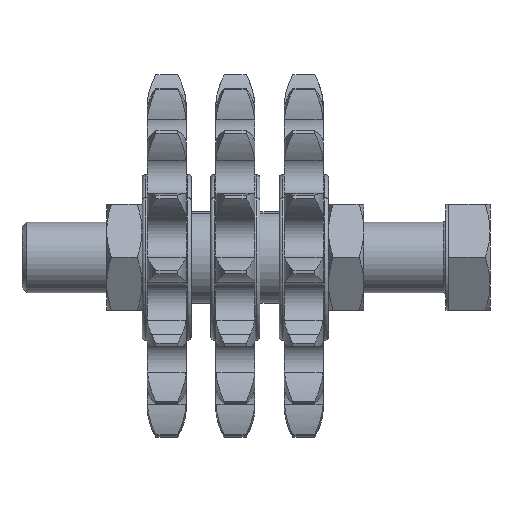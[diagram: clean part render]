
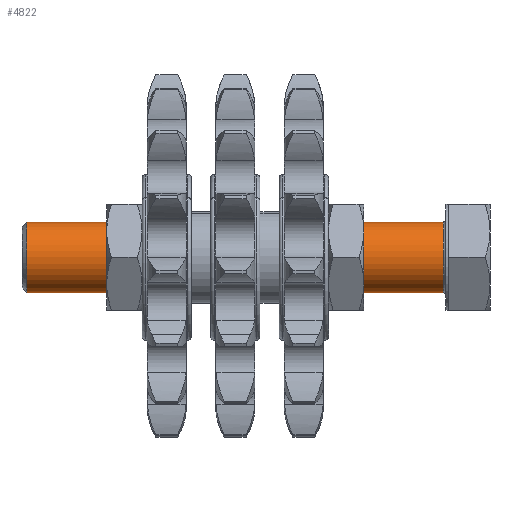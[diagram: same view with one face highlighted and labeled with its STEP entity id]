
A CAD part, front view. The second image highlights one B-rep face of the part: STEP entity #4822.
In plain terms, the highlighted cylindrical face has radius 10 mm (diameter 20 mm), a partial arc.
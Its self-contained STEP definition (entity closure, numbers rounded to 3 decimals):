
#102 = ORIENTED_EDGE ( 'NONE', *, *, #3066, .T. ) ;
#316 = ORIENTED_EDGE ( 'NONE', *, *, #6227, .F. ) ;
#405 = CYLINDRICAL_SURFACE ( 'NONE', #410, 10. ) ;
#410 = AXIS2_PLACEMENT_3D ( 'NONE', #2749, #1646, #3254 ) ;
#627 = CARTESIAN_POINT ( 'NONE',  ( 13.3, 0., 0. ) ) ;
#925 = EDGE_CURVE ( 'NONE', #3704, #4577, #5182, .T. ) ;
#1308 = CARTESIAN_POINT ( 'NONE',  ( 0., 0., -10. ) ) ;
#1436 = VERTEX_POINT ( 'NONE', #6418 ) ;
#1646 = DIRECTION ( 'NONE',  ( -1., 0., 0. ) ) ;
#1851 = AXIS2_PLACEMENT_3D ( 'NONE', #4248, #7007, #3107 ) ;
#2301 = ORIENTED_EDGE ( 'NONE', *, *, #925, .T. ) ;
#2492 = DIRECTION ( 'NONE',  ( -1., 0., 0. ) ) ;
#2623 = CIRCLE ( 'NONE', #1851, 10. ) ;
#2644 = VECTOR ( 'NONE', #5903, 1000. ) ;
#2749 = CARTESIAN_POINT ( 'NONE',  ( 0., 0., 0. ) ) ;
#2887 = VECTOR ( 'NONE', #2492, 1000. ) ;
#2992 = CARTESIAN_POINT ( 'NONE',  ( 13.3, 0., -10. ) ) ;
#3027 = VERTEX_POINT ( 'NONE', #5845 ) ;
#3066 = EDGE_CURVE ( 'NONE', #3027, #3704, #4727, .T. ) ;
#3107 = DIRECTION ( 'NONE',  ( 0., 0., 1. ) ) ;
#3254 = DIRECTION ( 'NONE',  ( 0., 0., 1. ) ) ;
#3473 = EDGE_CURVE ( 'NONE', #1436, #3027, #2623, .T. ) ;
#3704 = VERTEX_POINT ( 'NONE', #6194 ) ;
#4243 = ORIENTED_EDGE ( 'NONE', *, *, #3473, .T. ) ;
#4248 = CARTESIAN_POINT ( 'NONE',  ( 131.126, 0., 0. ) ) ;
#4562 = DIRECTION ( 'NONE',  ( 0., 0., -1. ) ) ;
#4577 = VERTEX_POINT ( 'NONE', #2992 ) ;
#4727 = LINE ( 'NONE', #6429, #2887 ) ;
#4822 = ADVANCED_FACE ( 'NONE', ( #6744 ), #405, .T. ) ;
#5182 = CIRCLE ( 'NONE', #6107, 10. ) ;
#5722 = DIRECTION ( 'NONE',  ( 1., 0., 0. ) ) ;
#5845 = CARTESIAN_POINT ( 'NONE',  ( 131.126, 0., 10. ) ) ;
#5903 = DIRECTION ( 'NONE',  ( -1., 0., 0. ) ) ;
#6107 = AXIS2_PLACEMENT_3D ( 'NONE', #627, #5722, #4562 ) ;
#6194 = CARTESIAN_POINT ( 'NONE',  ( 13.3, 0., 10. ) ) ;
#6227 = EDGE_CURVE ( 'NONE', #1436, #4577, #6331, .T. ) ;
#6238 = EDGE_LOOP ( 'NONE', ( #316, #4243, #102, #2301 ) ) ;
#6331 = LINE ( 'NONE', #1308, #2644 ) ;
#6418 = CARTESIAN_POINT ( 'NONE',  ( 131.126, 0., -10. ) ) ;
#6429 = CARTESIAN_POINT ( 'NONE',  ( 0., 0., 10. ) ) ;
#6744 = FACE_OUTER_BOUND ( 'NONE', #6238, .T. ) ;
#7007 = DIRECTION ( 'NONE',  ( -1., 0., 0. ) ) ;
